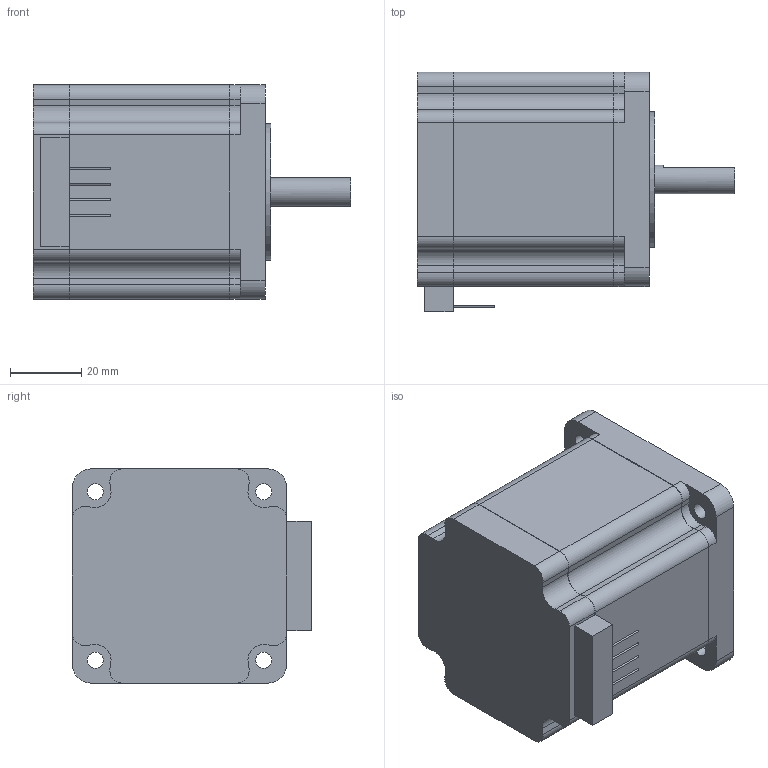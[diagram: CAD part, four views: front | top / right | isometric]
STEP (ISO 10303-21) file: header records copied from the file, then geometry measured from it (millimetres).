
FILE_DESCRIPTION(/* description */ ('STEP AP203'),/* implementation_level */ '2;1');
FILE_NAME(/* name */ 'PK267JDA',/* time_stamp */ '2026-07-14T16:33:36+02:00',/* author */ ('License CC BY-ND 4.0'),/* organization */ ('CADENAS'),/* preprocessor_version */ 'ST-DEVELOPER v20',/* originating_system */ 'PARTsolutions',/* authorisation */ ' ');
FILE_SCHEMA (('CONFIG_CONTROL_DESIGN'));
Length unit declared in the file: millimetre
Products named in the file (1): PK267JDA
Bounding box: 89 x 67 x 60 mm (x, y, z)
Volume: 211207.8 mm3; surface area: 23527.9 mm2
Topology: 1 solids, 1 shells, 156 faces, 432 edges, 288 vertices
Faces by surface type: plane 82, cylinder 74
Full cylindrical faces by diameter (mm): 0.5 x4, 4.5 x4, 8 x1, 38.1 x1
Entity records: 5003 total; most frequent: DIRECTION 884, CARTESIAN_POINT 865, ORIENTED_EDGE 842, EDGE_CURVE 421, AXIS2_PLACEMENT_3D 306, VERTEX_POINT 287, LINE 272, VECTOR 272
